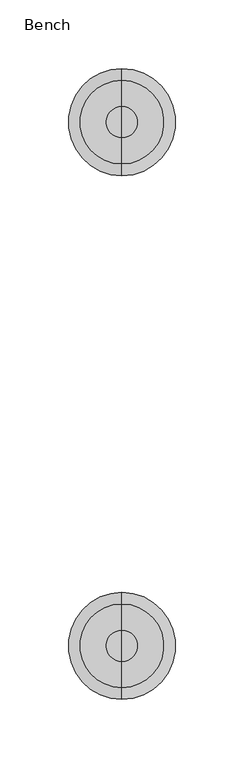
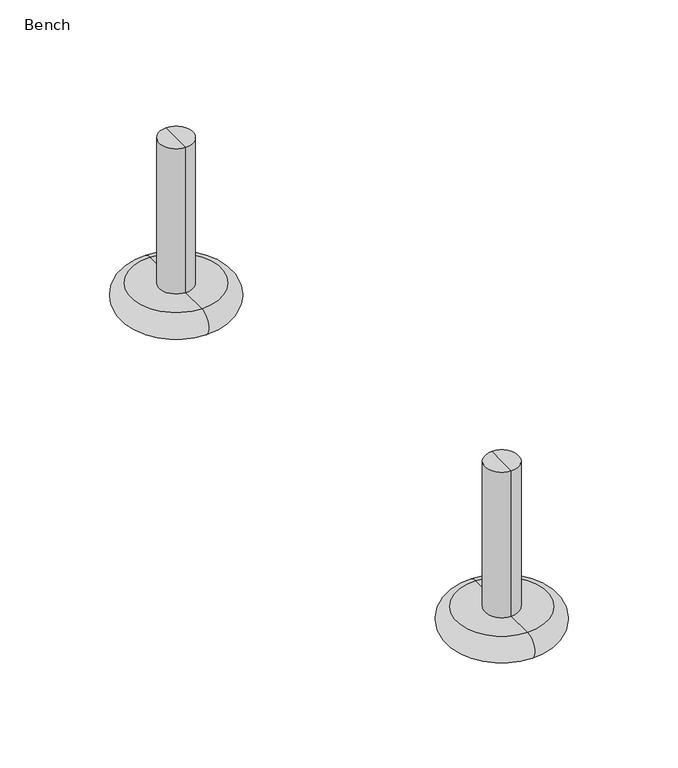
"""IFC4 building model written with IfcOpenShell, lengths in millimetres: furniture geometry, Steelcase Coalesse - Ripple - Seating - Upholstered Wave Bench : Bench."""

from ifc_helpers import new_model, si_unit, point, frame, origin, place, context, project, spatial, circle_curve, ellipse_curve, trimmed, source, transform, mapped, element, save
from ifc_brep_helpers import plane_surface, cylinder_surface, revolved_surface, advanced_brep


def bench_4e8ea6fa(model_context):
    return source(origin(), model_context, "Body", "AdvancedBrep", [
        advanced_brep(
        [(132.7965165, -981.8088965, 120.9697331), (132.7965165, -959.0867369, 120.9697331), (132.7965165, -970.4478167, 120.9697331), (132.7965165, -981.8088965, 17.1812856), (132.7965165, -959.0867369, 17.1812856), (132.7965165, -1000.816876, 17.1812856), (132.7965165, -940.0787574, 17.1812856), (132.7965165, -1000.816876, 0.0), (132.7965165, -940.0787574, 0.0), (132.7965165, -970.4478167, 0.0)],
        [
            (0, 1, circle_curve(frame((132.7965165, -970.4478167, 120.9697331), z_axis=(0.0, 0.0, 1.0), x_axis=(0.0, 1.0, 0.0)), 11.3610798)),
            (1, 2),
            (2, 0),
            (1, 0, circle_curve(frame((132.7965165, -970.4478167, 120.9697331), z_axis=(0.0, 0.0, 1.0), x_axis=(0.0, 1.0, 0.0)), 11.3610798)),
            (3, 4, circle_curve(frame((132.7965165, -970.4478167, 17.1812856), z_axis=(0.0, 0.0, 1.0), x_axis=(0.0, 1.0, 0.0)), 11.3610798)),
            (4, 1),
            (0, 3),
            (4, 3, circle_curve(frame((132.7965165, -970.4478167, 17.1812856), z_axis=(0.0, 0.0, 1.0), x_axis=(0.0, 1.0, 0.0)), 11.3610798)),
            (5, 6, circle_curve(frame((132.7965165, -970.4478167, 17.1812856), z_axis=(0.0, 0.0, 1.0), x_axis=(0.0, 1.0, 0.0)), 30.3690593)),
            (6, 4),
            (3, 5),
            (6, 5, circle_curve(frame((132.7965165, -970.4478167, 17.1812856), z_axis=(0.0, 0.0, 1.0), x_axis=(0.0, 1.0, 0.0)), 30.3690593)),
            (7, 8, circle_curve(frame((132.7965165, -970.4478167, 0.0), z_axis=(0.0, 0.0, 1.0), x_axis=(0.0, 1.0, 0.0)), 30.3690593)),
            (8, 6, circle_curve(frame((132.7965165, -940.0787574, 8.5906428), z_axis=(1.0, 0.0, 0.0), x_axis=(0.0, -1.0, 0.0)), 8.5906428)),
            (5, 7, circle_curve(frame((132.7965165, -1000.816876, 8.5906428), z_axis=(1.0, 0.0, 0.0), x_axis=(0.0, 1.0, 0.0)), 8.5906428)),
            (8, 7, circle_curve(frame((132.7965165, -970.4478167, 0.0), z_axis=(0.0, 0.0, 1.0), x_axis=(0.0, 1.0, 0.0)), 30.3690593)),
            (9, 8),
            (7, 9),
        ],
        [
            plane_surface(frame((132.7965165, -970.4478167, 120.9697331), z_axis=(0.0, 0.0, 1.0), x_axis=(0.0, 1.0, 0.0))),
            cylinder_surface(frame((132.7965165, -970.4478167, 34.264853), z_axis=(0.0, 0.0, -1.0), x_axis=(0.0, 1.0, 0.0)), 11.3610798),
            plane_surface(frame((132.7965165, -970.4478167, 17.1812856), z_axis=(0.0, 0.0, 1.0), x_axis=(0.0, 1.0, 0.0))),
            revolved_surface(trimmed(ellipse_curve(frame((132.7965165, -940.0787574, 8.5906428), z_axis=(-1.0, 0.0, 0.0), x_axis=(0.0, -1.0, 0.0)), 8.5906428, 8.5906428), [point((132.7965165, -940.0787574, 17.1812856))], [point((132.7965165, -940.0787574, 0.0))], True, "CARTESIAN"), (132.7965165, -970.4478167, 34.264853), (0.0, 0.0, -1.0)),
            plane_surface(frame((132.7965165, -970.4478167, 0.0), z_axis=(0.0, 0.0, -1.0), x_axis=(0.0, 1.0, 0.0))),
        ],
        [
            (0, [[1, 2, 3]]),
            (0, [[4, -3, -2]]),
            (1, [[5, 6, -1, 7]]),
            (1, [[8, -7, -4, -6]]),
            (2, [[9, 10, -5, 11]]),
            (2, [[12, -11, -8, -10]]),
            (3, [[13, 14, -9, 15]]),
            (3, [[16, -15, -12, -14]]),
            (4, [[17, -13, 18]]),
            (4, [[-18, -16, -17]]),
        ],
    ),
        advanced_brep(
        [(132.7965165, -600.8088965, 120.9697331), (132.7965165, -578.0867369, 120.9697331), (132.7965165, -589.4478167, 120.9697331), (132.7965165, -600.8088965, 17.1812856), (132.7965165, -578.0867369, 17.1812856), (132.7965165, -619.816876, 17.1812856), (132.7965165, -559.0787574, 17.1812856), (132.7965165, -619.816876, 0.0), (132.7965165, -559.0787574, 0.0), (132.7965165, -589.4478167, 0.0)],
        [
            (0, 1, circle_curve(frame((132.7965165, -589.4478167, 120.9697331), z_axis=(0.0, 0.0, 1.0), x_axis=(0.0, 1.0, 0.0)), 11.3610798)),
            (1, 2),
            (2, 0),
            (1, 0, circle_curve(frame((132.7965165, -589.4478167, 120.9697331), z_axis=(0.0, 0.0, 1.0), x_axis=(0.0, 1.0, 0.0)), 11.3610798)),
            (3, 4, circle_curve(frame((132.7965165, -589.4478167, 17.1812856), z_axis=(0.0, 0.0, 1.0), x_axis=(0.0, 1.0, 0.0)), 11.3610798)),
            (4, 1),
            (0, 3),
            (4, 3, circle_curve(frame((132.7965165, -589.4478167, 17.1812856), z_axis=(0.0, 0.0, 1.0), x_axis=(0.0, 1.0, 0.0)), 11.3610798)),
            (5, 6, circle_curve(frame((132.7965165, -589.4478167, 17.1812856), z_axis=(0.0, 0.0, 1.0), x_axis=(0.0, 1.0, 0.0)), 30.3690593)),
            (6, 4),
            (3, 5),
            (6, 5, circle_curve(frame((132.7965165, -589.4478167, 17.1812856), z_axis=(0.0, 0.0, 1.0), x_axis=(0.0, 1.0, 0.0)), 30.3690593)),
            (7, 8, circle_curve(frame((132.7965165, -589.4478167, 0.0), z_axis=(0.0, 0.0, 1.0), x_axis=(0.0, 1.0, 0.0)), 30.3690593)),
            (8, 6, circle_curve(frame((132.7965165, -559.0787574, 8.5906428), z_axis=(1.0, 0.0, 0.0), x_axis=(0.0, -1.0, 0.0)), 8.5906428)),
            (5, 7, circle_curve(frame((132.7965165, -619.816876, 8.5906428), z_axis=(1.0, 0.0, 0.0), x_axis=(0.0, 1.0, 0.0)), 8.5906428)),
            (8, 7, circle_curve(frame((132.7965165, -589.4478167, 0.0), z_axis=(0.0, 0.0, 1.0), x_axis=(0.0, 1.0, 0.0)), 30.3690593)),
            (9, 8),
            (7, 9),
        ],
        [
            plane_surface(frame((132.7965165, -589.4478167, 120.9697331), z_axis=(0.0, 0.0, 1.0), x_axis=(0.0, 1.0, 0.0))),
            cylinder_surface(frame((132.7965165, -589.4478167, 34.264853), z_axis=(0.0, 0.0, -1.0), x_axis=(0.0, 1.0, 0.0)), 11.3610798),
            plane_surface(frame((132.7965165, -589.4478167, 17.1812856), z_axis=(0.0, 0.0, 1.0), x_axis=(0.0, 1.0, 0.0))),
            revolved_surface(trimmed(ellipse_curve(frame((132.7965165, -559.0787574, 8.5906428), z_axis=(-1.0, 0.0, 0.0), x_axis=(0.0, -1.0, 0.0)), 8.5906428, 8.5906428), [point((132.7965165, -559.0787574, 17.1812856))], [point((132.7965165, -559.0787574, 0.0))], True, "CARTESIAN"), (132.7965165, -589.4478167, 34.264853), (0.0, 0.0, -1.0)),
            plane_surface(frame((132.7965165, -589.4478167, 0.0), z_axis=(0.0, 0.0, -1.0), x_axis=(0.0, 1.0, 0.0))),
        ],
        [
            (0, [[1, 2, 3]]),
            (0, [[4, -3, -2]]),
            (1, [[5, 6, -1, 7]]),
            (1, [[8, -7, -4, -6]]),
            (2, [[9, 10, -5, 11]]),
            (2, [[12, -11, -8, -10]]),
            (3, [[13, 14, -9, 15]]),
            (3, [[16, -15, -12, -14]]),
            (4, [[17, -13, 18]]),
            (4, [[-18, -16, -17]]),
        ],
    ),
    ])


if __name__ == "__main__":
    model = new_model("IFC4")
    model_context = context("Model", 3, world=origin())
    ifc_project = project(units=[si_unit("LENGTHUNIT", "METRE", prefix="MILLI")], contexts=[model_context])
    site = spatial("IfcSite", under=ifc_project)
    building = spatial("IfcBuilding", under=site)
    placement = place(None, origin())
    bench_shape = bench_4e8ea6fa(model_context)
    element("IfcFurniture", 1, ObjectType="Steelcase Coalesse - Ripple - Seating - Upholstered Wave Bench : Bench", at=placement, inside=building, context=model_context, shape_type="MappedRepresentation", body=[
        mapped(bench_shape, transform((0.0, 0.0, 0.0), x_axis=(1.0, 0.0, 0.0), y_axis=(0.0, 1.0, 0.0), z_axis=(0.0, 0.0, 1.0))),
    ])
    save(model, "model.ifc")
